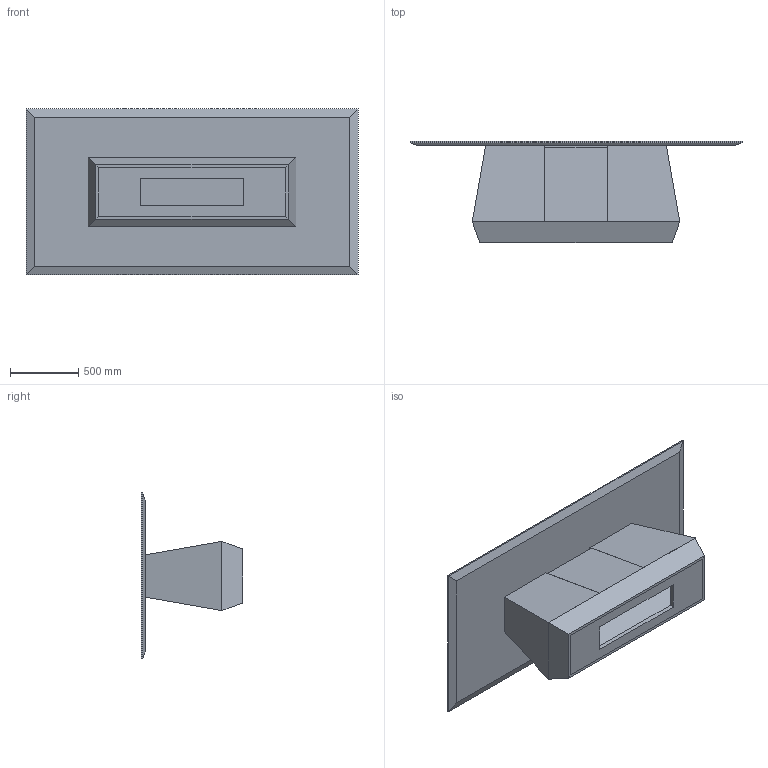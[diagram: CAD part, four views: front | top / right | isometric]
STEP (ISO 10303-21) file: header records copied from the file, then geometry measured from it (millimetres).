
FILE_DESCRIPTION(/* description */ ('','CAx-IF Rec.Pracs.---Representation and Presentation of Product Manufacturing Information (PMI)---4.0---2014-10-13'),/* implementation_level */ '2;1');
FILE_NAME(/* name */ 'TABLE_GRADIENT 5.stp',/* time_stamp */ '2024-12-07T16:26:40-05:00',/* author */ ('mbowman'),/* organization */ (''),/* preprocessor_version */ 'ST-DEVELOPER v19.2',/* originating_system */ 'Autodesk Inventor 2023',/* authorisation */ '');
FILE_SCHEMA (('AP242_MANAGED_MODEL_BASED_3D_ENGINEERING_MIM_LF { 1 0 10303 442 1 1 4 }'));
Length unit declared in the file: inch
Products named in the file (23): GRADIENT^TABLE 5_PRISM BASE-ASSEMBLY; GRADIENT^TABLE 5_PRISM BASE-RT END BOTTOM; GRADIENT^TABLE 5_PRISM BASE-RT END TOP; GRADIENT^TABLE 5_PRISM BASE-LT END TOP; GRADIENT^TABLE 5_PRISM BASE-LT END BOTTOM; GRADIENT^TABLE 5_PRISM BASE-BACK TOP; GRADIENT^TABLE 5_PRISM BASE-BACK BOTTOM; GRADIENT^TABLE 5_PRISM BASE-FRONT WING TOP; GRADIENT^TABLE 5_PRISM BASE-FRONT BOTTOM; GRADIENT^TABLE 5_PRISM BASE-BASE; GRADIENT^TABLE 5_PRISM BASE-SUB TOP; GRADIENT^TABLE 5_PRISM BASE-ACCESS PANEL; GRADIENT^TABLE 5_PRISM BASE-WORKSURFACE; _ASSEM_HINGE; _ASSEM_HINGE_1; GRADIENT^TABLE 5_PYRAMID BASE-POWER LID; _ASSEM_HINGE_2; _ASSEM_HINGE_3; _SUPPORT; _TIGE_3; _ARM; _TIGE_2; _TIGE_1
Assembly tree (62 placements, depth 3):
  GRADIENT^TABLE 5_PRISM BASE-ASSEMBLY
    GRADIENT^TABLE 5_PRISM BASE-RT END BOTTOM
    GRADIENT^TABLE 5_PRISM BASE-RT END TOP
    GRADIENT^TABLE 5_PRISM BASE-LT END TOP
    GRADIENT^TABLE 5_PRISM BASE-LT END BOTTOM
    GRADIENT^TABLE 5_PRISM BASE-BACK TOP
    GRADIENT^TABLE 5_PRISM BASE-BACK BOTTOM
    GRADIENT^TABLE 5_PRISM BASE-FRONT WING TOP
    GRADIENT^TABLE 5_PRISM BASE-FRONT BOTTOM
    GRADIENT^TABLE 5_PRISM BASE-BASE
    GRADIENT^TABLE 5_PRISM BASE-SUB TOP
    GRADIENT^TABLE 5_PRISM BASE-ACCESS PANEL
    GRADIENT^TABLE 5_PRISM BASE-WORKSURFACE
    GRADIENT^TABLE 5_PYRAMID BASE-POWER LID  x2
    _ASSEM_HINGE
      _SUPPORT  x2
      _TIGE_3  x2
      _ARM  x4
      _TIGE_1  x2
      _TIGE_2
    _ASSEM_HINGE_1
      _SUPPORT  x2
      _TIGE_3  x2
      _ARM  x4
      _TIGE_1  x2
      _TIGE_2
    _ASSEM_HINGE_2
      _SUPPORT  x2
      _TIGE_3  x2
      _ARM  x4
      _TIGE_1  x2
      _TIGE_2
    _ASSEM_HINGE_3
      _SUPPORT  x2
      _TIGE_3  x2
      _ARM  x4
      _TIGE_1  x2
      _TIGE_2
Bounding box: 2438.4 x 742.95 x 1219.2 mm (x, y, z)
Volume: 156526595.5 mm3; surface area: 13468982.2 mm2
Topology: 59 solids, 59 shells, 2154 faces, 5742 edges, 3654 vertices
Faces by surface type: cylinder 1524, plane 400, torus 176, sphere 32, cone 22
Full cylindrical faces by diameter (mm): 1 x84, 1.1 x8, 8 x8
Entity records: 16075 total; most frequent: CARTESIAN_POINT 5058, DIRECTION 2332, ORIENTED_EDGE 1798, AXIS2_PLACEMENT_3D 914, EDGE_CURVE 899, VERTEX_POINT 586, LINE 504, VECTOR 504
